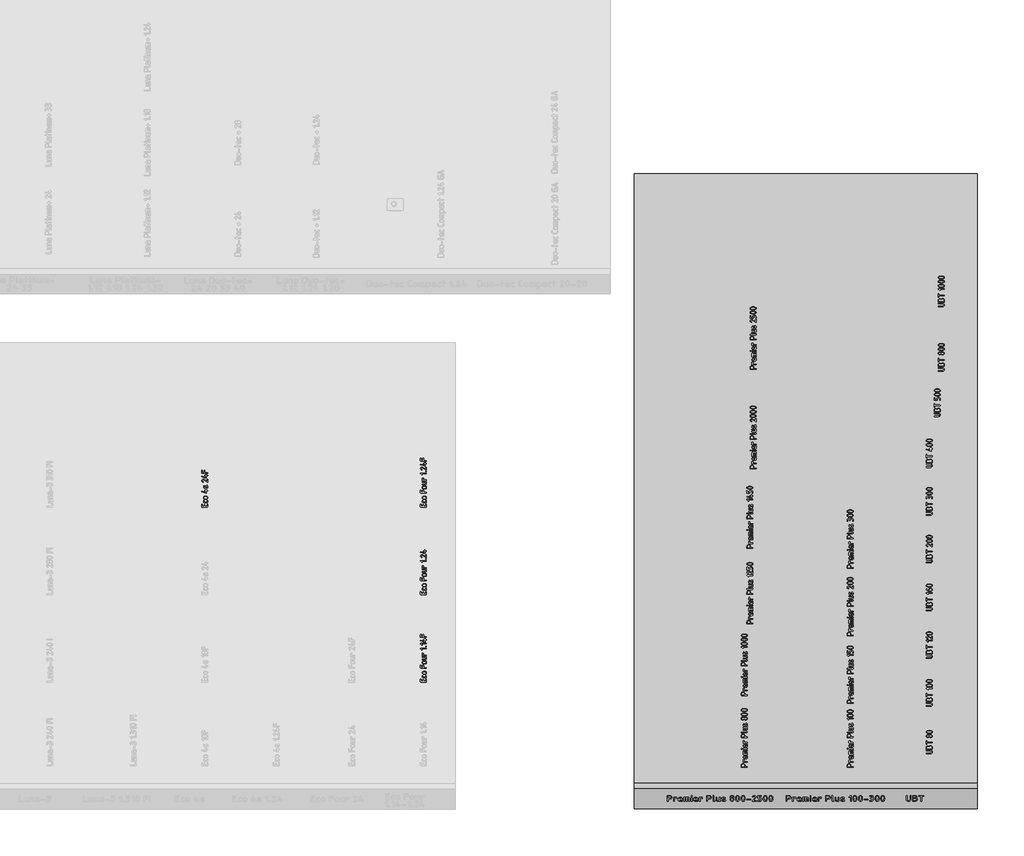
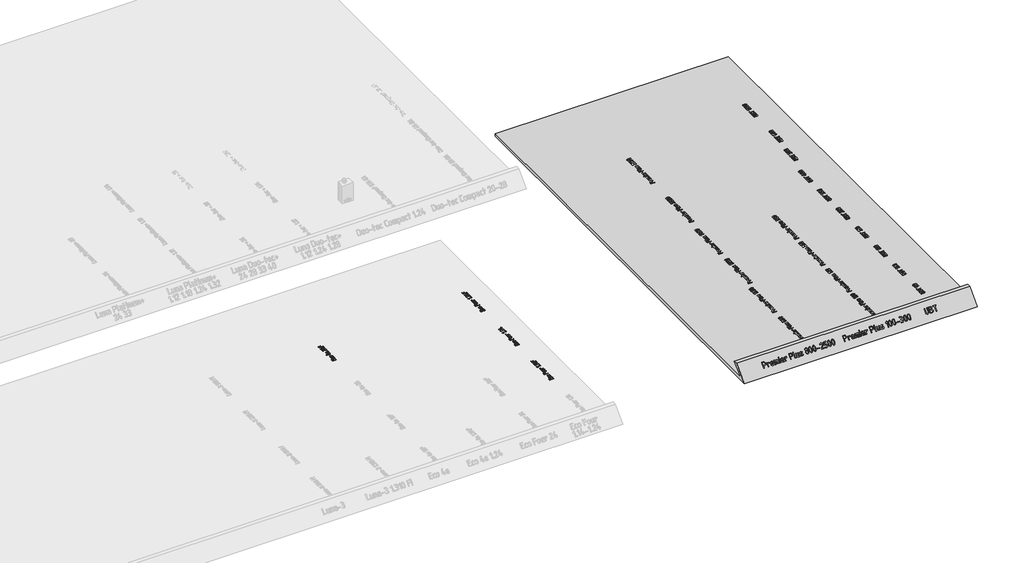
# One storey, part 21 of 37: 5 proxies.
"""IFC4 building model written with IfcOpenShell, lengths in millimetres."""

from ifc_helpers import new_model, si_unit, origin, origin_with_axes, place, context, project, spatial, polyline, outline, extrude, transform, mapped, element, save
from components import generic_models_70c5f209

model = new_model("IFC4")

# Units and contexts
model_context = context("Model", 3, world=origin())
ifc_project = project(units=[si_unit("LENGTHUNIT", "METRE", prefix="MILLI")], contexts=[model_context])

# Site, building, storey
site = spatial("IfcSite", under=ifc_project)
building = spatial("IfcBuilding", under=site)
storey = spatial("IfcBuildingStorey", under=building, Name="01_Стартовый вид_Площадка", Elevation=0.0)

# Proxies
placement = place(None, origin())
element("IfcBuildingElementProxy", 1, Name="150 мм", ObjectType="150 мм", at=placement, inside=storey, context=model_context, shape_type="SweptSolid", body=[
    extrude(outline(polyline([(22622.6374214, -15038.8871108), (22486.8818775, -15038.8871108), (22481.2187379, -15036.9694339), (22479.3310247, -15031.2164032), (22479.3310247, -14971.0492905), (22481.2487016, -14965.4161146), (22487.0017323, -14963.5383893), (22492.754763, -14965.4161146), (22494.6724399, -14971.0492905), (22494.6724399, -15023.5456956), (22540.6966855, -15023.5456956), (22540.6966855, -14986.0311412), (22542.6143624, -14980.427929), (22548.3673931, -14978.5601916), (22554.1204238, -14980.427929), (22556.0381007, -14986.0311412), (22556.0381007, -15023.5456956), (22614.846859, -15023.5456956), (22614.846859, -14971.0492905), (22616.7645359, -14965.4161146), (22622.5175666, -14963.5383893), (22628.2705973, -14965.4161146), (22630.1882742, -14971.0492905), (22630.1882742, -15031.2164032), (22628.300561, -15036.9694339), (22622.6374214, -15038.8871108)])), origin_with_axes(), (0.0, 0.0, 1.0), 10.0),
    extrude(outline(polyline([(22555.5187299, -14918.7126917), (22600.0248146, -14918.7126917), (22610.4721585, -14914.2780639), (22614.846859, -14903.730841), (22614.846859, -14881.1981374), (22616.7645359, -14875.5949252), (22622.5175666, -14873.7271878), (22628.2705973, -14875.5949252), (22630.1882742, -14881.1981374), (22630.1882742, -14903.730841), (22628.0208998, -14915.3867209), (22621.5187765, -14925.1848513), (22611.8604767, -14931.836793), (22600.2245726, -14934.0541069), (22555.3189719, -14934.0541069), (22543.6830678, -14931.836793), (22534.024768, -14925.1848513), (22527.5226447, -14915.3867209), (22525.3552703, -14903.730841), (22525.3552703, -14881.1981374), (22527.2729472, -14875.5949252), (22533.0259779, -14873.7271878), (22538.7790086, -14875.5949252), (22540.6966855, -14881.1981374), (22540.6966855, -14903.730841), (22545.0314343, -14914.3379913), (22555.5187299, -14918.7126917)])), origin_with_axes(), (0.0, 0.0, 1.0), 10.0),
    extrude(outline(polyline([(22592.753623, -14844.5625183), (22562.7899215, -14844.5625183), (22548.3973568, -14841.8508033), (22536.3020093, -14833.7156583), (22528.0919551, -14821.7351716), (22525.3552703, -14807.4874315), (22528.0619914, -14793.089873), (22536.1821545, -14781.13935), (22548.2475383, -14773.0940961), (22562.7899215, -14770.4123448), (22592.753623, -14770.4123448), (22607.1461877, -14773.1240598), (22619.2415352, -14781.2592048), (22627.4515894, -14793.2396915), (22630.1882742, -14807.4874315), (22627.4515894, -14821.7351716), (22619.2415352, -14833.7156583), (22607.1461877, -14841.8508033), (22592.753623, -14844.5625183)]), holes=[polyline([(22592.3141554, -14785.75376), (22562.3105022, -14785.75376), (22553.6809562, -14787.3468302), (22546.4097646, -14792.1260406), (22541.4657539, -14799.1525286), (22539.8177503, -14807.4874315), (22541.4657539, -14815.8223345), (22546.4097646, -14822.8488225), (22553.6809562, -14827.6280329), (22562.3105022, -14829.2211031), (22592.3141554, -14829.2211031), (22601.0236047, -14827.6430148), (22608.2947962, -14822.90875), (22613.2088433, -14815.8972438), (22614.846859, -14807.4874315), (22613.1988554, -14799.1525286), (22608.2548446, -14792.1260406), (22600.9736651, -14787.3468302), (22592.3141554, -14785.75376)])]), origin_with_axes(), (0.0, 0.0, 1.0), 10.0),
    extrude(outline(polyline([(22622.6374214, -14688.5914638), (22486.8818775, -14688.5914638), (22481.2187379, -14686.6737869), (22479.3310247, -14680.9207562), (22479.3310247, -14620.7536434), (22481.2487016, -14615.1204675), (22487.0017323, -14613.2427423), (22492.754763, -14615.1204675), (22494.6724399, -14620.7536434), (22494.6724399, -14673.2500486), (22540.6966855, -14673.2500486), (22540.6966855, -14620.7536434), (22542.6143624, -14615.1204675), (22548.3673931, -14613.2427423), (22554.1204238, -14615.1204675), (22556.0381007, -14620.7536434), (22556.0381007, -14673.2500486), (22622.7572762, -14673.2500486), (22628.3305247, -14675.1677255), (22630.1882742, -14680.9207562), (22628.300561, -14686.6737869), (22622.6374214, -14688.5914638)])), origin_with_axes(), (0.0, 0.0, 1.0), 10.0),
    extrude(outline(polyline([(22592.753623, -14583.7584599), (22562.7899215, -14583.7584599), (22548.3973568, -14581.0467449), (22536.3020093, -14572.9116), (22528.0919551, -14560.9311133), (22525.3552703, -14546.6833732), (22528.0619914, -14532.2858146), (22536.1821545, -14520.3352916), (22548.2475383, -14512.2900378), (22562.7899215, -14509.6082865), (22592.753623, -14509.6082865), (22607.1461877, -14512.3200015), (22619.2415352, -14520.4551464), (22627.4515894, -14532.4356331), (22630.1882742, -14546.6833732), (22627.4515894, -14560.9311133), (22619.2415352, -14572.9116), (22607.1461877, -14581.0467449), (22592.753623, -14583.7584599)]), holes=[polyline([(22592.3141554, -14524.9497017), (22562.3105022, -14524.9497017), (22553.6809562, -14526.5427718), (22546.4097646, -14531.3219822), (22541.4657539, -14538.3484702), (22539.8177503, -14546.6833732), (22541.4657539, -14555.0182762), (22546.4097646, -14562.0447642), (22553.6809562, -14566.8239746), (22562.3105022, -14568.4170447), (22592.3141554, -14568.4170447), (22601.0236047, -14566.8389564), (22608.2947962, -14562.1046916), (22613.2088433, -14555.0931854), (22614.846859, -14546.6833732), (22613.1988554, -14538.3484702), (22608.2548446, -14531.3219822), (22600.9736651, -14526.5427718), (22592.3141554, -14524.9497017)])]), origin_with_axes(), (0.0, 0.0, 1.0), 10.0),
    extrude(outline(polyline([(22532.8262199, -14404.7752826), (22622.7173246, -14404.7752826), (22628.3205368, -14406.6330321), (22630.1882742, -14412.2062806), (22630.1882742, -14449.2813673), (22628.0208998, -14460.7774408), (22621.5187765, -14470.3358616), (22611.8604767, -14476.7780575), (22600.2245726, -14478.9254561), (22532.8262199, -14478.9254561), (22527.2230077, -14477.0077792), (22525.3552703, -14471.2547485), (22527.2230077, -14465.5017178), (22532.8262199, -14463.5840409), (22599.9449114, -14463.5840409), (22610.4322069, -14459.3092194), (22614.846859, -14449.0816093), (22614.846859, -14420.1166978), (22532.8262199, -14420.1166978), (22527.2230077, -14418.1990209), (22525.3552703, -14412.4459902), (22527.2230077, -14406.6929595), (22532.8262199, -14404.7752826)])), origin_with_axes(), (0.0, 0.0, 1.0), 10.0),
    extrude(outline(polyline([(22532.8262199, -14374.0924522), (22527.2230077, -14372.1747753), (22525.3552703, -14366.4217446), (22525.3552703, -14321.2364827), (22527.2729472, -14315.6332705), (22533.0259779, -14313.7655331), (22548.2075867, -14313.7655331), (22553.8407626, -14315.6332705), (22555.7184879, -14321.2364827), (22553.8407626, -14326.8696586), (22548.2075867, -14328.7473839), (22540.6966855, -14328.7473839), (22540.6966855, -14358.751037), (22622.7173246, -14358.751037), (22628.3205368, -14360.6687139), (22630.1882742, -14366.4217446), (22628.3205368, -14372.1747753), (22622.7173246, -14374.0924522), (22532.8262199, -14374.0924522)])), origin_with_axes(), (0.0, 0.0, 1.0), 10.0),
    extrude(outline(polyline([(22505.0598565, -14202.7799825), (22522.3589002, -14220.0390746), (22524.5162867, -14225.2727345), (22522.6385614, -14230.9059104), (22517.0053855, -14232.7836357), (22511.7717256, -14230.5862976), (22482.2874433, -14201.2618216), (22479.3310247, -14195.1092749), (22481.2187379, -14189.3562442), (22486.8818775, -14187.4385673), (22622.6374214, -14187.4385673), (22628.300561, -14189.3562442), (22630.1882742, -14195.1092749), (22628.300561, -14200.8623056), (22622.6374214, -14202.7799825), (22505.0598565, -14202.7799825)])), origin_with_axes(), (0.0, 0.0, 1.0), 10.0),
    extrude(outline(polyline([(22614.846859, -14156.7557369), (22609.0938283, -14154.83806), (22607.1761514, -14149.0850293), (22609.0938283, -14143.3319986), (22614.846859, -14141.4143217), (22622.5175666, -14141.4143217), (22628.2705973, -14143.3319986), (22630.1882742, -14149.0850293), (22628.2705973, -14154.83806), (22622.5175666, -14156.7557369), (22614.846859, -14156.7557369)])), origin_with_axes(), (0.0, 0.0, 1.0), 10.0),
    extrude(outline(polyline([(22505.0598565, -14080.0486609), (22522.3589002, -14097.307753), (22524.5162867, -14102.5414129), (22522.6385614, -14108.1745888), (22517.0053855, -14110.0523141), (22511.7717256, -14107.854976), (22482.2874433, -14078.5305001), (22479.3310247, -14072.3779533), (22481.2187379, -14066.6249226), (22486.8818775, -14064.7072457), (22622.6374214, -14064.7072457), (22628.300561, -14066.6249226), (22630.1882742, -14072.3779533), (22628.300561, -14078.130984), (22622.6374214, -14080.0486609), (22505.0598565, -14080.0486609)])), origin_with_axes(), (0.0, 0.0, 1.0), 10.0),
    extrude(outline(polyline([(22591.9945426, -14035.4227214), (22589.9570109, -14035.1830118), (22484.8043942, -14005.1793586), (22480.6993671, -14002.5625287), (22479.3310247, -13997.9081671), (22481.1987621, -13992.2749912), (22486.8019743, -13990.3972659), (22488.9593608, -13990.7568303), (22584.1640286, -14018.0038229), (22584.1640286, -13982.8863647), (22561.631325, -13982.8863647), (22556.0281128, -13980.9686878), (22554.1603754, -13975.2156571), (22556.0281128, -13969.4626264), (22561.631325, -13967.5449495), (22584.1640286, -13967.5449495), (22584.1640286, -13952.5231471), (22586.0817055, -13946.9199349), (22591.8347362, -13945.0521975), (22597.5877669, -13946.9199349), (22599.5054438, -13952.5231471), (22599.5054438, -13967.5449495), (22622.5175666, -13967.5449495), (22628.2705973, -13969.4626264), (22630.1882742, -13975.2156571), (22628.2705973, -13980.9686878), (22622.5175666, -13982.8863647), (22599.5054438, -13982.8863647), (22599.5054438, -14027.9118202), (22597.6277185, -14033.5449961), (22591.9945426, -14035.4227214)])), origin_with_axes(), (0.0, 0.0, 1.0), 10.0),
    extrude(outline(polyline([(22622.6374214, -13913.8499963), (22486.8818775, -13913.8499963), (22481.2187379, -13911.9323194), (22479.3310247, -13906.1792887), (22479.3310247, -13846.012176), (22481.2487016, -13840.3790001), (22487.0017323, -13838.5012748), (22492.754763, -13840.3790001), (22494.6724399, -13846.012176), (22494.6724399, -13898.5085811), (22540.6966855, -13898.5085811), (22540.6966855, -13846.012176), (22542.6143624, -13840.3790001), (22548.3673931, -13838.5012748), (22554.1204238, -13840.3790001), (22556.0381007, -13846.012176), (22556.0381007, -13898.5085811), (22622.7572762, -13898.5085811), (22628.3305247, -13900.426258), (22630.1882742, -13906.1792887), (22628.300561, -13911.9323194), (22622.6374214, -13913.8499963)])), origin_with_axes(), (0.0, 0.0, 1.0), 10.0),
])
element("IfcBuildingElementProxy", 2, Name="150 мм", ObjectType="150 мм", at=placement, inside=storey, context=model_context, shape_type="SweptSolid", body=[
    extrude(outline(polyline([(22622.6374214, -12838.8871108), (22486.8818775, -12838.8871108), (22481.2187379, -12836.9694339), (22479.3310247, -12831.2164032), (22479.3310247, -12771.0492905), (22481.2487016, -12765.4161146), (22487.0017323, -12763.5383893), (22492.754763, -12765.4161146), (22494.6724399, -12771.0492905), (22494.6724399, -12823.5456956), (22540.6966855, -12823.5456956), (22540.6966855, -12786.0311412), (22542.6143624, -12780.427929), (22548.3673931, -12778.5601916), (22554.1204238, -12780.427929), (22556.0381007, -12786.0311412), (22556.0381007, -12823.5456956), (22614.846859, -12823.5456956), (22614.846859, -12771.0492905), (22616.7645359, -12765.4161146), (22622.5175666, -12763.5383893), (22628.2705973, -12765.4161146), (22630.1882742, -12771.0492905), (22630.1882742, -12831.2164032), (22628.300561, -12836.9694339), (22622.6374214, -12838.8871108)])), origin_with_axes(), (0.0, 0.0, 1.0), 10.0),
    extrude(outline(polyline([(22555.5187299, -12718.7126917), (22600.0248146, -12718.7126917), (22610.4721585, -12714.2780639), (22614.846859, -12703.730841), (22614.846859, -12681.1981374), (22616.7645359, -12675.5949252), (22622.5175666, -12673.7271878), (22628.2705973, -12675.5949252), (22630.1882742, -12681.1981374), (22630.1882742, -12703.730841), (22628.0208998, -12715.3867209), (22621.5187765, -12725.1848513), (22611.8604767, -12731.836793), (22600.2245726, -12734.0541069), (22555.3189719, -12734.0541069), (22543.6830678, -12731.836793), (22534.024768, -12725.1848513), (22527.5226447, -12715.3867209), (22525.3552703, -12703.730841), (22525.3552703, -12681.1981374), (22527.2729472, -12675.5949252), (22533.0259779, -12673.7271878), (22538.7790086, -12675.5949252), (22540.6966855, -12681.1981374), (22540.6966855, -12703.730841), (22545.0314343, -12714.3379913), (22555.5187299, -12718.7126917)])), origin_with_axes(), (0.0, 0.0, 1.0), 10.0),
    extrude(outline(polyline([(22592.753623, -12644.5625183), (22562.7899215, -12644.5625183), (22548.3973568, -12641.8508033), (22536.3020093, -12633.7156583), (22528.0919551, -12621.7351716), (22525.3552703, -12607.4874315), (22528.0619914, -12593.089873), (22536.1821545, -12581.13935), (22548.2475383, -12573.0940961), (22562.7899215, -12570.4123448), (22592.753623, -12570.4123448), (22607.1461877, -12573.1240598), (22619.2415352, -12581.2592048), (22627.4515894, -12593.2396915), (22630.1882742, -12607.4874315), (22627.4515894, -12621.7351716), (22619.2415352, -12633.7156583), (22607.1461877, -12641.8508033), (22592.753623, -12644.5625183)]), holes=[polyline([(22592.3141554, -12585.75376), (22562.3105022, -12585.75376), (22553.6809562, -12587.3468302), (22546.4097646, -12592.1260406), (22541.4657539, -12599.1525286), (22539.8177503, -12607.4874315), (22541.4657539, -12615.8223345), (22546.4097646, -12622.8488225), (22553.6809562, -12627.6280329), (22562.3105022, -12629.2211031), (22592.3141554, -12629.2211031), (22601.0236047, -12627.6430148), (22608.2947962, -12622.90875), (22613.2088433, -12615.8972438), (22614.846859, -12607.4874315), (22613.1988554, -12599.1525286), (22608.2548446, -12592.1260406), (22600.9736651, -12587.3468302), (22592.3141554, -12585.75376)])]), origin_with_axes(), (0.0, 0.0, 1.0), 10.0),
    extrude(outline(polyline([(22622.6374214, -12488.5914638), (22486.8818775, -12488.5914638), (22481.2187379, -12486.6737869), (22479.3310247, -12480.9207562), (22479.3310247, -12420.7536434), (22481.2487016, -12415.1204675), (22487.0017323, -12413.2427423), (22492.754763, -12415.1204675), (22494.6724399, -12420.7536434), (22494.6724399, -12473.2500486), (22540.6966855, -12473.2500486), (22540.6966855, -12420.7536434), (22542.6143624, -12415.1204675), (22548.3673931, -12413.2427423), (22554.1204238, -12415.1204675), (22556.0381007, -12420.7536434), (22556.0381007, -12473.2500486), (22622.7572762, -12473.2500486), (22628.3305247, -12475.1677255), (22630.1882742, -12480.9207562), (22628.300561, -12486.6737869), (22622.6374214, -12488.5914638)])), origin_with_axes(), (0.0, 0.0, 1.0), 10.0),
    extrude(outline(polyline([(22592.753623, -12383.7584599), (22562.7899215, -12383.7584599), (22548.3973568, -12381.0467449), (22536.3020093, -12372.9116), (22528.0919551, -12360.9311133), (22525.3552703, -12346.6833732), (22528.0619914, -12332.2858146), (22536.1821545, -12320.3352916), (22548.2475383, -12312.2900378), (22562.7899215, -12309.6082865), (22592.753623, -12309.6082865), (22607.1461877, -12312.3200015), (22619.2415352, -12320.4551464), (22627.4515894, -12332.4356331), (22630.1882742, -12346.6833732), (22627.4515894, -12360.9311133), (22619.2415352, -12372.9116), (22607.1461877, -12381.0467449), (22592.753623, -12383.7584599)]), holes=[polyline([(22592.3141554, -12324.9497017), (22562.3105022, -12324.9497017), (22553.6809562, -12326.5427718), (22546.4097646, -12331.3219822), (22541.4657539, -12338.3484702), (22539.8177503, -12346.6833732), (22541.4657539, -12355.0182762), (22546.4097646, -12362.0447642), (22553.6809562, -12366.8239746), (22562.3105022, -12368.4170447), (22592.3141554, -12368.4170447), (22601.0236047, -12366.8389564), (22608.2947962, -12362.1046916), (22613.2088433, -12355.0931854), (22614.846859, -12346.6833732), (22613.1988554, -12338.3484702), (22608.2548446, -12331.3219822), (22600.9736651, -12326.5427718), (22592.3141554, -12324.9497017)])]), origin_with_axes(), (0.0, 0.0, 1.0), 10.0),
    extrude(outline(polyline([(22532.8262199, -12204.7752826), (22622.7173246, -12204.7752826), (22628.3205368, -12206.6330321), (22630.1882742, -12212.2062806), (22630.1882742, -12249.2813673), (22628.0208998, -12260.7774408), (22621.5187765, -12270.3358616), (22611.8604767, -12276.7780575), (22600.2245726, -12278.9254561), (22532.8262199, -12278.9254561), (22527.2230077, -12277.0077792), (22525.3552703, -12271.2547485), (22527.2230077, -12265.5017178), (22532.8262199, -12263.5840409), (22599.9449114, -12263.5840409), (22610.4322069, -12259.3092194), (22614.846859, -12249.0816093), (22614.846859, -12220.1166978), (22532.8262199, -12220.1166978), (22527.2230077, -12218.1990209), (22525.3552703, -12212.4459902), (22527.2230077, -12206.6929595), (22532.8262199, -12204.7752826)])), origin_with_axes(), (0.0, 0.0, 1.0), 10.0),
    extrude(outline(polyline([(22532.8262199, -12174.0924522), (22527.2230077, -12172.1747753), (22525.3552703, -12166.4217446), (22525.3552703, -12121.2364827), (22527.2729472, -12115.6332705), (22533.0259779, -12113.7655331), (22548.2075867, -12113.7655331), (22553.8407626, -12115.6332705), (22555.7184879, -12121.2364827), (22553.8407626, -12126.8696586), (22548.2075867, -12128.7473839), (22540.6966855, -12128.7473839), (22540.6966855, -12158.751037), (22622.7173246, -12158.751037), (22628.3205368, -12160.6687139), (22630.1882742, -12166.4217446), (22628.3205368, -12172.1747753), (22622.7173246, -12174.0924522), (22532.8262199, -12174.0924522)])), origin_with_axes(), (0.0, 0.0, 1.0), 10.0),
    extrude(outline(polyline([(22505.0598565, -12002.7799825), (22522.3589002, -12020.0390746), (22524.5162867, -12025.2727345), (22522.6385614, -12030.9059104), (22517.0053855, -12032.7836357), (22511.7717256, -12030.5862976), (22482.2874433, -12001.2618216), (22479.3310247, -11995.1092749), (22481.2187379, -11989.3562442), (22486.8818775, -11987.4385673), (22622.6374214, -11987.4385673), (22628.300561, -11989.3562442), (22630.1882742, -11995.1092749), (22628.300561, -12000.8623056), (22622.6374214, -12002.7799825), (22505.0598565, -12002.7799825)])), origin_with_axes(), (0.0, 0.0, 1.0), 10.0),
    extrude(outline(polyline([(22614.846859, -11956.7557369), (22609.0938283, -11954.83806), (22607.1761514, -11949.0850293), (22609.0938283, -11943.3319986), (22614.846859, -11941.4143217), (22622.5175666, -11941.4143217), (22628.2705973, -11943.3319986), (22630.1882742, -11949.0850293), (22628.2705973, -11954.83806), (22622.5175666, -11956.7557369), (22614.846859, -11956.7557369)])), origin_with_axes(), (0.0, 0.0, 1.0), 10.0),
    extrude(outline(polyline([(22479.3310247, -11873.5765014), (22482.0826913, -11859.1489791), (22490.3376911, -11847.0286618), (22502.49796, -11838.8036257), (22516.9654339, -11836.061947), (22527.7623543, -11837.769878), (22538.6591538, -11842.893671), (22614.846859, -11890.1564163), (22614.846859, -11843.5728482), (22616.7645359, -11837.9396723), (22622.5175666, -11836.061947), (22628.2705973, -11837.9396723), (22630.1882742, -11843.5728482), (22630.1882742, -11903.5801546), (22628.3105489, -11909.2133304), (22622.677373, -11911.0910557), (22618.3226484, -11909.8126045), (22529.7099949, -11854.8392), (22517.2450951, -11851.0837494), (22508.5805914, -11852.731753), (22501.2844301, -11857.6757638), (22496.3254375, -11864.9469553), (22494.6724399, -11873.5765014), (22499.386729, -11885.8116795), (22513.5295961, -11897.107995), (22517.1651919, -11903.5801546), (22515.2874666, -11909.2133304), (22509.6542907, -11911.0910557), (22506.5780173, -11910.3719269), (22486.1427729, -11894.201516), (22481.0339618, -11884.4458341), (22479.3310247, -11873.5765014)])), origin_with_axes(), (0.0, 0.0, 1.0), 10.0),
    extrude(outline(polyline([(22591.9945426, -11807.2967936), (22589.9570109, -11807.0570839), (22484.8043942, -11777.0534308), (22480.6993671, -11774.4366008), (22479.3310247, -11769.7822392), (22481.1987621, -11764.1490633), (22486.8019743, -11762.271338), (22488.9593608, -11762.6309024), (22584.1640286, -11789.877895), (22584.1640286, -11754.7604368), (22561.631325, -11754.7604368), (22556.0281128, -11752.8427599), (22554.1603754, -11747.0897292), (22556.0281128, -11741.3366985), (22561.631325, -11739.4190216), (22584.1640286, -11739.4190216), (22584.1640286, -11724.3972192), (22586.0817055, -11718.794007), (22591.8347362, -11716.9262697), (22597.5877669, -11718.794007), (22599.5054438, -11724.3972192), (22599.5054438, -11739.4190216), (22622.5175666, -11739.4190216), (22628.2705973, -11741.3366985), (22630.1882742, -11747.0897292), (22628.2705973, -11752.8427599), (22622.5175666, -11754.7604368), (22599.5054438, -11754.7604368), (22599.5054438, -11799.7858924), (22597.6277185, -11805.4190683), (22591.9945426, -11807.2967936)])), origin_with_axes(), (0.0, 0.0, 1.0), 10.0),
])
element("IfcBuildingElementProxy", 3, Name="150 мм", ObjectType="150 мм", at=placement, inside=storey, context=model_context, shape_type="SweptSolid", body=[
    extrude(outline(polyline([(22622.6374214, -10638.8871108), (22486.8818775, -10638.8871108), (22481.2187379, -10636.9694339), (22479.3310247, -10631.2164032), (22479.3310247, -10571.0492905), (22481.2487016, -10565.4161146), (22487.0017323, -10563.5383893), (22492.754763, -10565.4161146), (22494.6724399, -10571.0492905), (22494.6724399, -10623.5456956), (22540.6966855, -10623.5456956), (22540.6966855, -10586.0311412), (22542.6143624, -10580.427929), (22548.3673931, -10578.5601916), (22554.1204238, -10580.427929), (22556.0381007, -10586.0311412), (22556.0381007, -10623.5456956), (22614.846859, -10623.5456956), (22614.846859, -10571.0492905), (22616.7645359, -10565.4161146), (22622.5175666, -10563.5383893), (22628.2705973, -10565.4161146), (22630.1882742, -10571.0492905), (22630.1882742, -10631.2164032), (22628.300561, -10636.9694339), (22622.6374214, -10638.8871108)])), origin_with_axes(), (0.0, 0.0, 1.0), 10.0),
    extrude(outline(polyline([(22555.5187299, -10518.7126917), (22600.0248146, -10518.7126917), (22610.4721585, -10514.2780639), (22614.846859, -10503.730841), (22614.846859, -10481.1981374), (22616.7645359, -10475.5949252), (22622.5175666, -10473.7271878), (22628.2705973, -10475.5949252), (22630.1882742, -10481.1981374), (22630.1882742, -10503.730841), (22628.0208998, -10515.3867209), (22621.5187765, -10525.1848513), (22611.8604767, -10531.836793), (22600.2245726, -10534.0541069), (22555.3189719, -10534.0541069), (22543.6830678, -10531.836793), (22534.024768, -10525.1848513), (22527.5226447, -10515.3867209), (22525.3552703, -10503.730841), (22525.3552703, -10481.1981374), (22527.2729472, -10475.5949252), (22533.0259779, -10473.7271878), (22538.7790086, -10475.5949252), (22540.6966855, -10481.1981374), (22540.6966855, -10503.730841), (22545.0314343, -10514.3379913), (22555.5187299, -10518.7126917)])), origin_with_axes(), (0.0, 0.0, 1.0), 10.0),
    extrude(outline(polyline([(22592.753623, -10444.5625183), (22562.7899215, -10444.5625183), (22548.3973568, -10441.8508033), (22536.3020093, -10433.7156583), (22528.0919551, -10421.7351716), (22525.3552703, -10407.4874315), (22528.0619914, -10393.089873), (22536.1821545, -10381.13935), (22548.2475383, -10373.0940961), (22562.7899215, -10370.4123448), (22592.753623, -10370.4123448), (22607.1461877, -10373.1240598), (22619.2415352, -10381.2592048), (22627.4515894, -10393.2396915), (22630.1882742, -10407.4874315), (22627.4515894, -10421.7351716), (22619.2415352, -10433.7156583), (22607.1461877, -10441.8508033), (22592.753623, -10444.5625183)]), holes=[polyline([(22592.3141554, -10385.75376), (22562.3105022, -10385.75376), (22553.6809562, -10387.3468302), (22546.4097646, -10392.1260406), (22541.4657539, -10399.1525286), (22539.8177503, -10407.4874315), (22541.4657539, -10415.8223345), (22546.4097646, -10422.8488225), (22553.6809562, -10427.6280329), (22562.3105022, -10429.2211031), (22592.3141554, -10429.2211031), (22601.0236047, -10427.6430148), (22608.2947962, -10422.90875), (22613.2088433, -10415.8972438), (22614.846859, -10407.4874315), (22613.1988554, -10399.1525286), (22608.2548446, -10392.1260406), (22600.9736651, -10387.3468302), (22592.3141554, -10385.75376)])]), origin_with_axes(), (0.0, 0.0, 1.0), 10.0),
    extrude(outline(polyline([(22622.6374214, -10288.5914638), (22486.8818775, -10288.5914638), (22481.2187379, -10286.6737869), (22479.3310247, -10280.9207562), (22479.3310247, -10220.7536434), (22481.2487016, -10215.1204675), (22487.0017323, -10213.2427423), (22492.754763, -10215.1204675), (22494.6724399, -10220.7536434), (22494.6724399, -10273.2500486), (22540.6966855, -10273.2500486), (22540.6966855, -10220.7536434), (22542.6143624, -10215.1204675), (22548.3673931, -10213.2427423), (22554.1204238, -10215.1204675), (22556.0381007, -10220.7536434), (22556.0381007, -10273.2500486), (22622.7572762, -10273.2500486), (22628.3305247, -10275.1677255), (22630.1882742, -10280.9207562), (22628.300561, -10286.6737869), (22622.6374214, -10288.5914638)])), origin_with_axes(), (0.0, 0.0, 1.0), 10.0),
    extrude(outline(polyline([(22592.753623, -10183.7584599), (22562.7899215, -10183.7584599), (22548.3973568, -10181.0467449), (22536.3020093, -10172.9116), (22528.0919551, -10160.9311133), (22525.3552703, -10146.6833732), (22528.0619914, -10132.2858146), (22536.1821545, -10120.3352916), (22548.2475383, -10112.2900378), (22562.7899215, -10109.6082865), (22592.753623, -10109.6082865), (22607.1461877, -10112.3200015), (22619.2415352, -10120.4551464), (22627.4515894, -10132.4356331), (22630.1882742, -10146.6833732), (22627.4515894, -10160.9311133), (22619.2415352, -10172.9116), (22607.1461877, -10181.0467449), (22592.753623, -10183.7584599)]), holes=[polyline([(22592.3141554, -10124.9497017), (22562.3105022, -10124.9497017), (22553.6809562, -10126.5427718), (22546.4097646, -10131.3219822), (22541.4657539, -10138.3484702), (22539.8177503, -10146.6833732), (22541.4657539, -10155.0182762), (22546.4097646, -10162.0447642), (22553.6809562, -10166.8239746), (22562.3105022, -10168.4170447), (22592.3141554, -10168.4170447), (22601.0236047, -10166.8389564), (22608.2947962, -10162.1046916), (22613.2088433, -10155.0931854), (22614.846859, -10146.6833732), (22613.1988554, -10138.3484702), (22608.2548446, -10131.3219822), (22600.9736651, -10126.5427718), (22592.3141554, -10124.9497017)])]), origin_with_axes(), (0.0, 0.0, 1.0), 10.0),
    extrude(outline(polyline([(22532.8262199, -10004.7752826), (22622.7173246, -10004.7752826), (22628.3205368, -10006.6330321), (22630.1882742, -10012.2062806), (22630.1882742, -10049.2813673), (22628.0208998, -10060.7774408), (22621.5187765, -10070.3358616), (22611.8604767, -10076.7780575), (22600.2245726, -10078.9254561), (22532.8262199, -10078.9254561), (22527.2230077, -10077.0077792), (22525.3552703, -10071.2547485), (22527.2230077, -10065.5017178), (22532.8262199, -10063.5840409), (22599.9449114, -10063.5840409), (22610.4322069, -10059.3092194), (22614.846859, -10049.0816093), (22614.846859, -10020.1166978), (22532.8262199, -10020.1166978), (22527.2230077, -10018.1990209), (22525.3552703, -10012.4459902), (22527.2230077, -10006.6929595), (22532.8262199, -10004.7752826)])), origin_with_axes(), (0.0, 0.0, 1.0), 10.0),
    extrude(outline(polyline([(22532.8262199, -9974.0924522), (22527.2230077, -9972.1747753), (22525.3552703, -9966.4217446), (22525.3552703, -9921.2364827), (22527.2729472, -9915.6332705), (22533.0259779, -9913.7655331), (22548.2075867, -9913.7655331), (22553.8407626, -9915.6332705), (22555.7184879, -9921.2364827), (22553.8407626, -9926.8696586), (22548.2075867, -9928.7473839), (22540.6966855, -9928.7473839), (22540.6966855, -9958.751037), (22622.7173246, -9958.751037), (22628.3205368, -9960.6687139), (22630.1882742, -9966.4217446), (22628.3205368, -9972.1747753), (22622.7173246, -9974.0924522), (22532.8262199, -9974.0924522)])), origin_with_axes(), (0.0, 0.0, 1.0), 10.0),
    extrude(outline(polyline([(22505.0598565, -9802.7799825), (22522.3589002, -9820.0390746), (22524.5162867, -9825.2727345), (22522.6385614, -9830.9059104), (22517.0053855, -9832.7836357), (22511.7717256, -9830.5862976), (22482.2874433, -9801.2618216), (22479.3310247, -9795.1092749), (22481.2187379, -9789.3562442), (22486.8818775, -9787.4385673), (22622.6374214, -9787.4385673), (22628.300561, -9789.3562442), (22630.1882742, -9795.1092749), (22628.300561, -9800.8623056), (22622.6374214, -9802.7799825), (22505.0598565, -9802.7799825)])), origin_with_axes(), (0.0, 0.0, 1.0), 10.0),
    extrude(outline(polyline([(22614.846859, -9756.7557369), (22609.0938283, -9754.83806), (22607.1761514, -9749.0850293), (22609.0938283, -9743.3319986), (22614.846859, -9741.4143217), (22622.5175666, -9741.4143217), (22628.2705973, -9743.3319986), (22630.1882742, -9749.0850293), (22628.2705973, -9754.83806), (22622.5175666, -9756.7557369), (22614.846859, -9756.7557369)])), origin_with_axes(), (0.0, 0.0, 1.0), 10.0),
    extrude(outline(polyline([(22479.3310247, -9673.5765014), (22482.0826913, -9659.1489791), (22490.3376911, -9647.0286618), (22502.49796, -9638.8036257), (22516.9654339, -9636.061947), (22527.7623543, -9637.769878), (22538.6591538, -9642.893671), (22614.846859, -9690.1564163), (22614.846859, -9643.5728482), (22616.7645359, -9637.9396723), (22622.5175666, -9636.061947), (22628.2705973, -9637.9396723), (22630.1882742, -9643.5728482), (22630.1882742, -9703.5801546), (22628.3105489, -9709.2133304), (22622.677373, -9711.0910557), (22618.3226484, -9709.8126045), (22529.7099949, -9654.8392), (22517.2450951, -9651.0837494), (22508.5805914, -9652.731753), (22501.2844301, -9657.6757638), (22496.3254375, -9664.9469553), (22494.6724399, -9673.5765014), (22499.386729, -9685.8116795), (22513.5295961, -9697.107995), (22517.1651919, -9703.5801546), (22515.2874666, -9709.2133304), (22509.6542907, -9711.0910557), (22506.5780173, -9710.3719269), (22486.1427729, -9694.201516), (22481.0339618, -9684.4458341), (22479.3310247, -9673.5765014)])), origin_with_axes(), (0.0, 0.0, 1.0), 10.0),
    extrude(outline(polyline([(22591.9945426, -9607.2967936), (22589.9570109, -9607.0570839), (22484.8043942, -9577.0534308), (22480.6993671, -9574.4366008), (22479.3310247, -9569.7822392), (22481.1987621, -9564.1490633), (22486.8019743, -9562.271338), (22488.9593608, -9562.6309024), (22584.1640286, -9589.877895), (22584.1640286, -9554.7604368), (22561.631325, -9554.7604368), (22556.0281128, -9552.8427599), (22554.1603754, -9547.0897292), (22556.0281128, -9541.3366985), (22561.631325, -9539.4190216), (22584.1640286, -9539.4190216), (22584.1640286, -9524.3972192), (22586.0817055, -9518.794007), (22591.8347362, -9516.9262697), (22597.5877669, -9518.794007), (22599.5054438, -9524.3972192), (22599.5054438, -9539.4190216), (22622.5175666, -9539.4190216), (22628.2705973, -9541.3366985), (22630.1882742, -9547.0897292), (22628.2705973, -9552.8427599), (22622.5175666, -9554.7604368), (22599.5054438, -9554.7604368), (22599.5054438, -9599.7858924), (22597.6277185, -9605.4190683), (22591.9945426, -9607.2967936)])), origin_with_axes(), (0.0, 0.0, 1.0), 10.0),
    extrude(outline(polyline([(22622.6374214, -9485.7240684), (22486.8818775, -9485.7240684), (22481.2187379, -9483.8063915), (22479.3310247, -9478.0533608), (22479.3310247, -9417.8862481), (22481.2487016, -9412.2530722), (22487.0017323, -9410.3753469), (22492.754763, -9412.2530722), (22494.6724399, -9417.8862481), (22494.6724399, -9470.3826532), (22540.6966855, -9470.3826532), (22540.6966855, -9417.8862481), (22542.6143624, -9412.2530722), (22548.3673931, -9410.3753469), (22554.1204238, -9412.2530722), (22556.0381007, -9417.8862481), (22556.0381007, -9470.3826532), (22622.7572762, -9470.3826532), (22628.3305247, -9472.3003301), (22630.1882742, -9478.0533608), (22628.300561, -9483.8063915), (22622.6374214, -9485.7240684)])), origin_with_axes(), (0.0, 0.0, 1.0), 10.0),
])
element("IfcBuildingElementProxy", 4, Name="150 мм", ObjectType="150 мм", at=placement, inside=storey, context=model_context, shape_type="SweptSolid", body=[
    extrude(outline(polyline([(17122.6374214, -10638.8871108), (16986.8818775, -10638.8871108), (16981.2187379, -10636.9694339), (16979.3310247, -10631.2164032), (16979.3310247, -10571.0492905), (16981.2487016, -10565.4161146), (16987.0017323, -10563.5383893), (16992.754763, -10565.4161146), (16994.6724399, -10571.0492905), (16994.6724399, -10623.5456956), (17040.6966855, -10623.5456956), (17040.6966855, -10586.0311412), (17042.6143624, -10580.427929), (17048.3673931, -10578.5601916), (17054.1204238, -10580.427929), (17056.0381007, -10586.0311412), (17056.0381007, -10623.5456956), (17114.846859, -10623.5456956), (17114.846859, -10571.0492905), (17116.7645359, -10565.4161146), (17122.5175666, -10563.5383893), (17128.2705973, -10565.4161146), (17130.1882742, -10571.0492905), (17130.1882742, -10631.2164032), (17128.300561, -10636.9694339), (17122.6374214, -10638.8871108)])), origin_with_axes(), (0.0, 0.0, 1.0), 10.0),
    extrude(outline(polyline([(17055.5187299, -10518.7126917), (17100.0248146, -10518.7126917), (17110.4721585, -10514.2780639), (17114.846859, -10503.730841), (17114.846859, -10481.1981374), (17116.7645359, -10475.5949252), (17122.5175666, -10473.7271878), (17128.2705973, -10475.5949252), (17130.1882742, -10481.1981374), (17130.1882742, -10503.730841), (17128.0208998, -10515.3867209), (17121.5187765, -10525.1848513), (17111.8604767, -10531.836793), (17100.2245726, -10534.0541069), (17055.3189719, -10534.0541069), (17043.6830678, -10531.836793), (17034.024768, -10525.1848513), (17027.5226447, -10515.3867209), (17025.3552703, -10503.730841), (17025.3552703, -10481.1981374), (17027.2729472, -10475.5949252), (17033.0259779, -10473.7271878), (17038.7790086, -10475.5949252), (17040.6966855, -10481.1981374), (17040.6966855, -10503.730841), (17045.0314343, -10514.3379913), (17055.5187299, -10518.7126917)])), origin_with_axes(), (0.0, 0.0, 1.0), 10.0),
    extrude(outline(polyline([(17092.753623, -10444.5625183), (17062.7899215, -10444.5625183), (17048.3973568, -10441.8508033), (17036.3020093, -10433.7156583), (17028.0919551, -10421.7351716), (17025.3552703, -10407.4874315), (17028.0619914, -10393.089873), (17036.1821545, -10381.13935), (17048.2475383, -10373.0940961), (17062.7899215, -10370.4123448), (17092.753623, -10370.4123448), (17107.1461877, -10373.1240598), (17119.2415352, -10381.2592048), (17127.4515894, -10393.2396915), (17130.1882742, -10407.4874315), (17127.4515894, -10421.7351716), (17119.2415352, -10433.7156583), (17107.1461877, -10441.8508033), (17092.753623, -10444.5625183)]), holes=[polyline([(17092.3141554, -10385.75376), (17062.3105022, -10385.75376), (17053.6809562, -10387.3468302), (17046.4097646, -10392.1260406), (17041.4657539, -10399.1525286), (17039.8177503, -10407.4874315), (17041.4657539, -10415.8223345), (17046.4097646, -10422.8488225), (17053.6809562, -10427.6280329), (17062.3105022, -10429.2211031), (17092.3141554, -10429.2211031), (17101.0236047, -10427.6430148), (17108.2947962, -10422.90875), (17113.2088433, -10415.8972438), (17114.846859, -10407.4874315), (17113.1988554, -10399.1525286), (17108.2548446, -10392.1260406), (17100.9736651, -10387.3468302), (17092.3141554, -10385.75376)])]), origin_with_axes(), (0.0, 0.0, 1.0), 10.0),
    extrude(outline(polyline([(17091.9945426, -10289.9897698), (17089.9570109, -10289.7500602), (16984.8043942, -10259.7464071), (16980.6993671, -10257.1295771), (16979.3310247, -10252.4752155), (16981.1987621, -10246.8420396), (16986.8019743, -10244.9643143), (16988.9593608, -10245.3238787), (17084.1640286, -10272.5708713), (17084.1640286, -10237.4534131), (17061.631325, -10237.4534131), (17056.0281128, -10235.5357362), (17054.1603754, -10229.7827055), (17056.0281128, -10224.0296748), (17061.631325, -10222.1119979), (17084.1640286, -10222.1119979), (17084.1640286, -10207.0901955), (17086.0817055, -10201.4869833), (17091.8347362, -10199.6192459), (17097.5877669, -10201.4869833), (17099.5054438, -10207.0901955), (17099.5054438, -10222.1119979), (17122.5175666, -10222.1119979), (17128.2705973, -10224.0296748), (17130.1882742, -10229.7827055), (17128.2705973, -10235.5357362), (17122.5175666, -10237.4534131), (17099.5054438, -10237.4534131), (17099.5054438, -10282.4788687), (17097.6277185, -10288.1120445), (17091.9945426, -10289.9897698)])), origin_with_axes(), (0.0, 0.0, 1.0), 10.0),
    extrude(outline(polyline([(17103.6604104, -10108.7693028), (17097.5378274, -10110.357379), (17093.4727519, -10115.1216075), (17075.0151117, -10153.634952), (17065.4866546, -10164.9911948), (17051.3637633, -10168.7766091), (17039.9376051, -10166.0998518), (17031.4678654, -10158.0695798), (17026.8834191, -10147.7420906), (17025.3552703, -10135.1373602), (17027.4727052, -10119.2865621), (17033.82501, -10105.2136102), (17040.5768307, -10101.2584016), (17045.870418, -10103.4757155), (17048.0877319, -10108.7693028), (17047.1688451, -10112.2850438), (17042.3147254, -10123.3915892), (17040.6966855, -10135.1373602), (17043.4733219, -10149.1004451), (17051.8032309, -10153.7548068), (17057.7859833, -10152.2166701), (17061.7511798, -10147.60226), (17080.408578, -10108.7693028), (17089.9370351, -10097.502951), (17104.0599264, -10093.7475004), (17115.945528, -10096.4442336), (17124.4352435, -10104.534433), (17128.7500165, -10115.0916438), (17130.1882742, -10128.3056362), (17128.0708393, -10148.1515946), (17121.7185345, -10164.5417393), (17114.846859, -10168.7766091), (17109.5532717, -10166.5592952), (17107.3359578, -10161.2657079), (17107.8952802, -10158.4291442), (17112.0901984, -10147.7221148), (17114.846859, -10127.8661686), (17112.0502468, -10113.5435193), (17103.6604104, -10108.7693028)])), origin_with_axes(), (0.0, 0.0, 1.0), 10.0),
    extrude(outline(polyline([(16979.3310247, -9975.2910003), (16982.0826913, -9960.863478), (16990.3376911, -9948.7431607), (17002.49796, -9940.5181246), (17016.9654339, -9937.7764459), (17027.7623543, -9939.4843769), (17038.6591538, -9944.6081699), (17114.846859, -9991.8709151), (17114.846859, -9945.2873471), (17116.7645359, -9939.6541712), (17122.5175666, -9937.7764459), (17128.2705973, -9939.6541712), (17130.1882742, -9945.2873471), (17130.1882742, -10005.2946534), (17128.3105489, -10010.9278293), (17122.677373, -10012.8055546), (17118.3226484, -10011.5271034), (17029.7099949, -9956.5536989), (17017.2450951, -9952.7982483), (17008.5805914, -9954.4462519), (17001.2844301, -9959.3902627), (16996.3254375, -9966.6614542), (16994.6724399, -9975.2910003), (16999.386729, -9987.5261784), (17013.5295961, -9998.8224939), (17017.1651919, -10005.2946534), (17015.2874666, -10010.9278293), (17009.6542907, -10012.8055546), (17006.5780173, -10012.0864258), (16986.1427729, -9995.9160149), (16981.0339618, -9986.160333), (16979.3310247, -9975.2910003)])), origin_with_axes(), (0.0, 0.0, 1.0), 10.0),
    extrude(outline(polyline([(17091.9945426, -9909.0112924), (17089.9570109, -9908.7715828), (16984.8043942, -9878.7679297), (16980.6993671, -9876.1510997), (16979.3310247, -9871.4967381), (16981.1987621, -9865.8635622), (16986.8019743, -9863.9858369), (16988.9593608, -9864.3454013), (17084.1640286, -9891.5923939), (17084.1640286, -9856.4749357), (17061.631325, -9856.4749357), (17056.0281128, -9854.5572588), (17054.1603754, -9848.8042281), (17056.0281128, -9843.0511974), (17061.631325, -9841.1335205), (17084.1640286, -9841.1335205), (17084.1640286, -9826.1117181), (17086.0817055, -9820.5085059), (17091.8347362, -9818.6407685), (17097.5877669, -9820.5085059), (17099.5054438, -9826.1117181), (17099.5054438, -9841.1335205), (17122.5175666, -9841.1335205), (17128.2705973, -9843.0511974), (17130.1882742, -9848.8042281), (17128.2705973, -9854.5572588), (17122.5175666, -9856.4749357), (17099.5054438, -9856.4749357), (17099.5054438, -9901.5003912), (17097.6277185, -9907.1335671), (17091.9945426, -9909.0112924)])), origin_with_axes(), (0.0, 0.0, 1.0), 10.0),
    extrude(outline(polyline([(17122.6374214, -9787.4385673), (16986.8818775, -9787.4385673), (16981.2187379, -9785.5208904), (16979.3310247, -9779.7678597), (16979.3310247, -9719.600747), (16981.2487016, -9713.9675711), (16987.0017323, -9712.0898458), (16992.754763, -9713.9675711), (16994.6724399, -9719.600747), (16994.6724399, -9772.0971521), (17040.6966855, -9772.0971521), (17040.6966855, -9719.600747), (17042.6143624, -9713.9675711), (17048.3673931, -9712.0898458), (17054.1204238, -9713.9675711), (17056.0381007, -9719.600747), (17056.0381007, -9772.0971521), (17122.7572762, -9772.0971521), (17128.3305247, -9774.014829), (17130.1882742, -9779.7678597), (17128.300561, -9785.5208904), (17122.6374214, -9787.4385673)])), origin_with_axes(), (0.0, 0.0, 1.0), 10.0),
])
generic_models_shape = generic_models_70c5f209(model_context)
element("IfcBuildingElementProxy", 5, Name="Подставка2 : Подставка", ObjectType="Подставка2 : Подставка", at=placement, inside=storey, context=model_context, shape_type="MappedRepresentation", body=[
    mapped(generic_models_shape, transform((25257.9942817, -12406.1749669, 11.1696829), x_axis=(1.0, 0.0, 0.0), y_axis=(0.0, 1.0, 0.0), z_axis=(0.0, 0.0, 1.0))),
])

save(model, "model.ifc")
